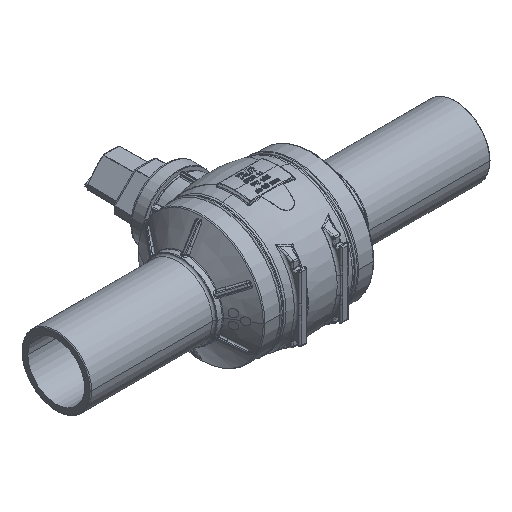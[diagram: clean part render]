
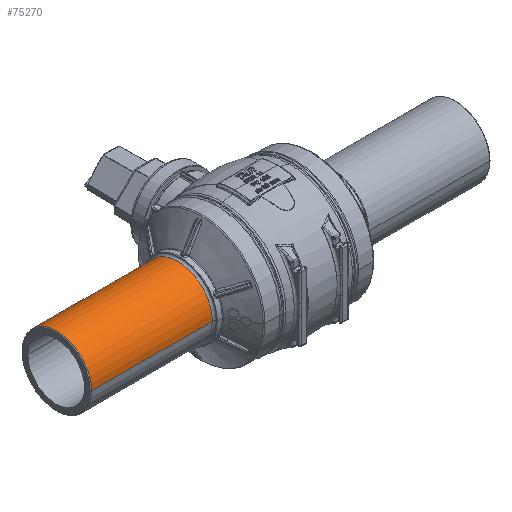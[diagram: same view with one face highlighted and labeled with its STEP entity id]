
A CAD part, isometric view. The second image highlights one B-rep face of the part: STEP entity #75270.
In plain terms, the highlighted cylindrical face has radius 45 mm (diameter 90 mm), a partial arc.
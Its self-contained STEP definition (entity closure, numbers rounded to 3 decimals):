
#2079 = DIRECTION ( 'NONE',  ( 1., 0., 0. ) ) ;
#2119 = CARTESIAN_POINT ( 'NONE',  ( -44.59, 45., 0. ) ) ;
#2670 = DIRECTION ( 'NONE',  ( 1., 0., 0. ) ) ;
#2672 = CARTESIAN_POINT ( 'NONE',  ( -44.59, -45., 0. ) ) ;
#6984 = CIRCLE ( 'NONE', #28888, 45. ) ;
#8432 = EDGE_CURVE ( 'NONE', #57366, #57273, #6984, .T. ) ;
#10537 = LINE ( 'NONE', #2119, #10538 ) ;
#10538 = VECTOR ( 'NONE', #2079, 1000. ) ;
#10600 = LINE ( 'NONE', #2672, #10607 ) ;
#10607 = VECTOR ( 'NONE', #2670, 1000. ) ;
#11193 = CIRCLE ( 'NONE', #44814, 45. ) ;
#16410 = FACE_OUTER_BOUND ( 'NONE', #30478, .T. ) ;
#16414 = CYLINDRICAL_SURFACE ( 'NONE', #92405, 45. ) ;
#21230 = CARTESIAN_POINT ( 'NONE',  ( -101.781, 0., 0. ) ) ;
#21231 = DIRECTION ( 'NONE',  ( 1., 0., 0. ) ) ;
#21232 = DIRECTION ( 'NONE',  ( 0., -1., 0. ) ) ;
#25123 = EDGE_CURVE ( 'NONE', #57366, #57252, #10537, .T. ) ;
#25380 = EDGE_CURVE ( 'NONE', #57273, #57318, #10600, .T. ) ;
#27552 = EDGE_CURVE ( 'NONE', #57252, #57318, #11193, .T. ) ;
#28888 = AXIS2_PLACEMENT_3D ( 'NONE', #46680, #46679, #46677 ) ;
#30478 = EDGE_LOOP ( 'NONE', ( #52359, #52485, #52607, #52279 ) ) ;
#44814 = AXIS2_PLACEMENT_3D ( 'NONE', #21230, #21231, #21232 ) ;
#46677 = DIRECTION ( 'NONE',  ( 0., -1., 0. ) ) ;
#46679 = DIRECTION ( 'NONE',  ( 1., 0., 0. ) ) ;
#46680 = CARTESIAN_POINT ( 'NONE',  ( -258.781, 0., 0. ) ) ;
#52279 = ORIENTED_EDGE ( 'NONE', *, *, #27552, .F. ) ;
#52359 = ORIENTED_EDGE ( 'NONE', *, *, #25123, .F. ) ;
#52485 = ORIENTED_EDGE ( 'NONE', *, *, #8432, .T. ) ;
#52607 = ORIENTED_EDGE ( 'NONE', *, *, #25380, .T. ) ;
#57252 = VERTEX_POINT ( 'NONE', #69369 ) ;
#57273 = VERTEX_POINT ( 'NONE', #69379 ) ;
#57318 = VERTEX_POINT ( 'NONE', #69401 ) ;
#57366 = VERTEX_POINT ( 'NONE', #69423 ) ;
#62034 = DIRECTION ( 'NONE',  ( 0., -1., 0. ) ) ;
#62036 = DIRECTION ( 'NONE',  ( 1., 0., 0. ) ) ;
#62038 = CARTESIAN_POINT ( 'NONE',  ( -44.59, 0., 0. ) ) ;
#69369 = CARTESIAN_POINT ( 'NONE',  ( -101.781, 45., 0. ) ) ;
#69379 = CARTESIAN_POINT ( 'NONE',  ( -258.781, -45., 0. ) ) ;
#69401 = CARTESIAN_POINT ( 'NONE',  ( -101.781, -45., 0. ) ) ;
#69423 = CARTESIAN_POINT ( 'NONE',  ( -258.781, 45., 0. ) ) ;
#75270 = ADVANCED_FACE ( 'NONE', ( #16410 ), #16414, .T. ) ;
#92405 = AXIS2_PLACEMENT_3D ( 'NONE', #62038, #62036, #62034 ) ;
